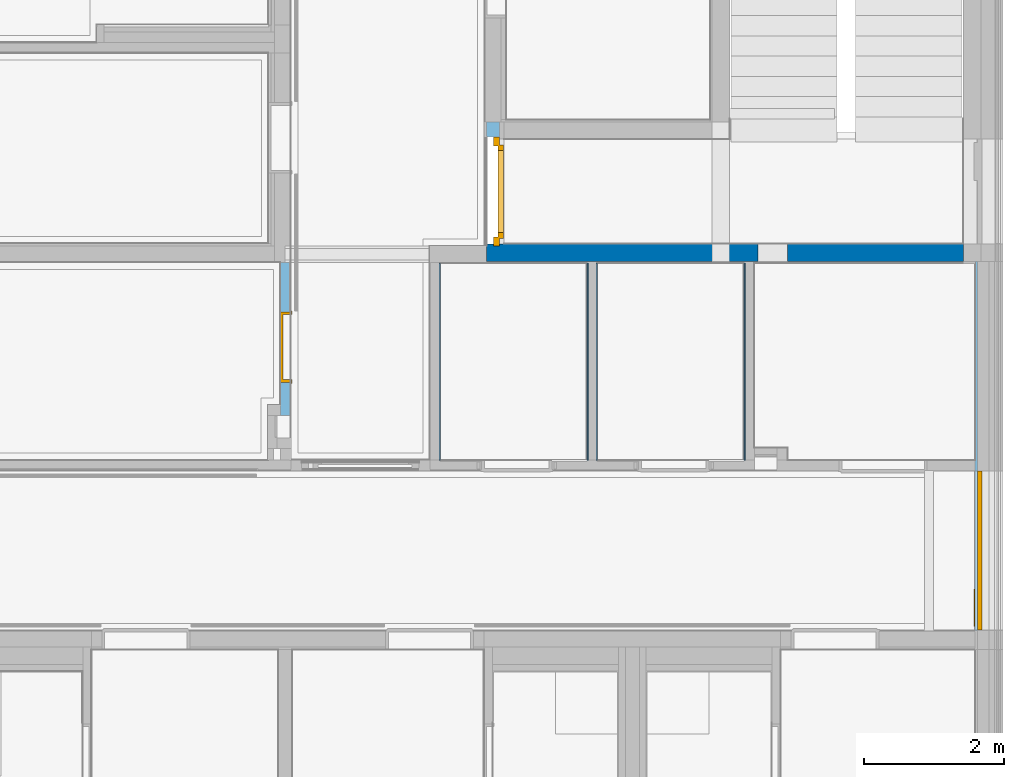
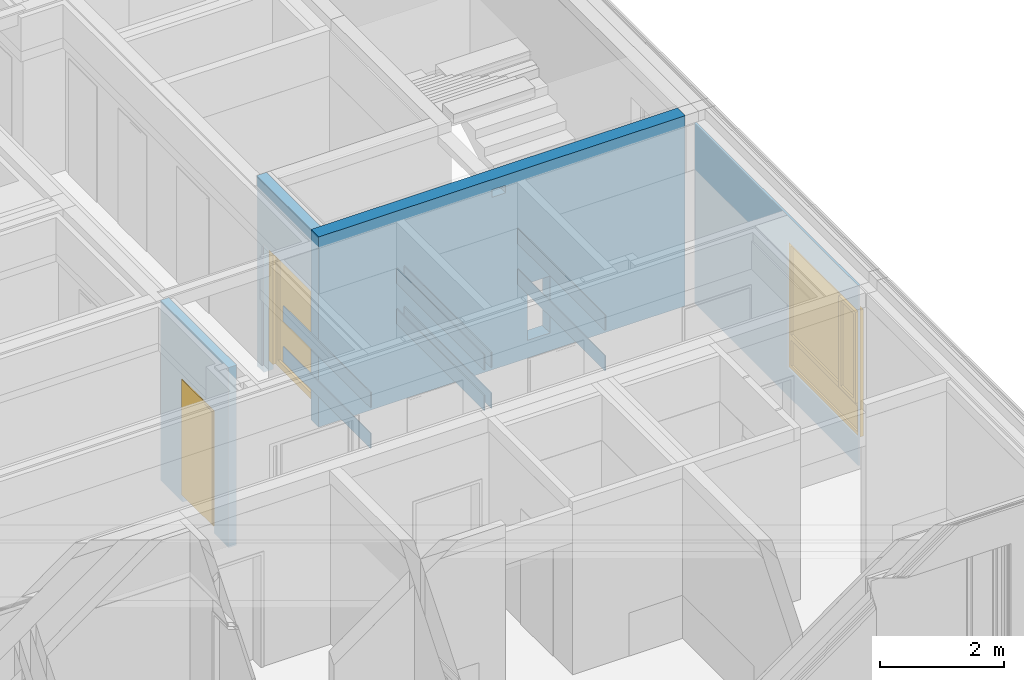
# One storey, part 134 of 222: 9 walls, 2 doors, 1 window, 4 openings, plus 3 elements that do not belong to this part.
"""IFC4 building model written with IfcOpenShell, lengths in metres."""

from ifc_helpers import new_model, entity, si_unit, converted_unit, derived_unit, frame, frame_2d, origin, origin_with_axes, place, context, subcontext, project, spatial, polyline, rectangle, outline, extrude, closed_shell, open_shell, faceted_brep, surface_model, source, transform, mapped, material, type_object, element, fill, save


model = new_model("IFC4")

# Units and contexts
model_context = context("Model", 3, precision=1e-05, world=origin())
body_context = subcontext(model_context, "Body", "Model", "MODEL_VIEW")
ifc_project = project(units=[si_unit("LENGTHUNIT", "METRE"), si_unit("AREAUNIT", "SQUARE_METRE"), si_unit("VOLUMEUNIT", "CUBIC_METRE"), si_unit("MASSUNIT", "GRAM", prefix="KILO"), converted_unit("PLANEANGLEUNIT", "DEGREE", entity("IfcPlaneAngleMeasure", 0.0174532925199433), si_unit("PLANEANGLEUNIT", "RADIAN"), dimensions=[0, 0, 0, 0, 0, 0, 0]), derived_unit("THERMALTRANSMITTANCEUNIT", [(si_unit("POWERUNIT", "WATT"), 1), (si_unit("THERMODYNAMICTEMPERATUREUNIT", "KELVIN"), -1), (si_unit("LENGTHUNIT", "METRE"), -2)]), derived_unit("VOLUMETRICFLOWRATEUNIT", [(si_unit("LENGTHUNIT", "METRE"), 3), (converted_unit("TIMEUNIT", "hour", entity("IfcTimeMeasure", 3600.0), si_unit("TIMEUNIT", "SECOND"), dimensions=[0, 0, 1, 0, 0, 0, 0]), -1), (si_unit("LENGTHUNIT", "METRE"), -1)])], contexts=[model_context])

# Site, building, storey
site_placement = place(None, origin())
site = spatial("IfcSite", under=ifc_project, at=site_placement, Name="Psychiatrie Neubau Wunstorf", CompositionType="ELEMENT")
building_placement = place(site_placement, origin())
building = spatial("IfcBuilding", under=site, at=building_placement, Name="Neubau H2 Stationsgebäude", CompositionType="ELEMENT")
storey_placement = place(building_placement, frame((0.0, 0.0, 3.6)))
storey = spatial("IfcBuildingStorey", under=building, at=storey_placement, Name="H2 Ebene +1", CompositionType="ELEMENT", Elevation=3.6)

# Wall, opening, window
ifc_material_1 = material(Name="WA-LB")
wall_1_placement = place(storey_placement, frame((105.889, 10.6249998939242, 0.0), z_axis=(0.0, 0.0, 1.0), x_axis=(0.0, -1.0, 0.0)))
wall_1 = element("IfcWall", 1, at=wall_1_placement, inside=storey, material=ifc_material_1, context=body_context, shape_type="SweptSolid", body=[
    extrude(rectangle(XDim=5.29249989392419, YDim=0.036, at=frame_2d((2.6462499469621, 0.018), x_axis=(1.0, 0.0))), origin_with_axes(), (0.0, 0.0, 1.0), 3.55),
])
opening_1_placement = place(wall_1_placement, frame((3.00624994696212, 0.0, 0.55), z_axis=(0.0, 1.0, 0.0), x_axis=(0.0, 0.0, 1.0)))
opening_1 = element("IfcOpeningElement", 2, at=opening_1_placement, cuts=wall_1, Name="Fensteröffnung", ObjectType="Opening", context=body_context, shape_type="SweptSolid", body=[
    extrude(outline(polyline([(2.5, 2.28), (2.5, 0.0), (0.0, 0.0), (0.0, 2.28), (2.5, 2.28)])), origin_with_axes(), (0.0, 0.0, 1.0), 0.036),
])
shared_shape_1 = source(origin_with_axes(), body_context, "Body", "SurfaceModel", [
    surface_model("IfcShellBasedSurfaceModel", [(0.0, 0.0, 2.5), (0.0699999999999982, 0.0, 2.5), (0.0699999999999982, 0.0, 0.0), (0.0, 0.0, 0.0), (0.0, 0.0700000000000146, 0.0), (0.0699999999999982, 0.0700000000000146, 0.0), (0.0699999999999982, 0.0700000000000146, 2.5), (0.0, 0.0700000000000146, 2.5)], [closed_shell([[[0, 1, 2, 3]], [[4, 5, 6, 7]], [[3, 4, 7, 0]], [[2, 5, 4, 3]], [[1, 6, 5, 2]], [[0, 7, 6, 1]]], orient=[[False], [False], [False], [False], [False], [False]])]),
    surface_model("IfcShellBasedSurfaceModel", [(2.21, 0.0, 2.5), (2.28, 0.0, 2.5), (2.28, 0.0, 0.0), (2.21, 0.0, 0.0), (2.21, 0.0700000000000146, 0.0), (2.28, 0.0700000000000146, 0.0), (2.28, 0.0700000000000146, 2.5), (2.21, 0.0700000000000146, 2.5)], [closed_shell([[[0, 1, 2, 3]], [[4, 5, 6, 7]], [[3, 4, 7, 0]], [[2, 5, 4, 3]], [[1, 6, 5, 2]], [[0, 7, 6, 1]]], orient=[[False], [False], [False], [False], [False], [False]])]),
    surface_model("IfcShellBasedSurfaceModel", [(0.0699999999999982, 0.0, 0.07), (2.21, 0.0, 0.07), (2.21, 0.0, 0.0), (0.0699999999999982, 0.0, 0.0), (0.0699999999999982, 0.0700000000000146, 0.0), (2.21, 0.0700000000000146, 0.0), (2.21, 0.0700000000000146, 0.07), (0.0699999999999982, 0.0700000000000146, 0.07)], [closed_shell([[[0, 1, 2, 3]], [[4, 5, 6, 7]], [[3, 4, 7, 0]], [[2, 5, 4, 3]], [[1, 6, 5, 2]], [[0, 7, 6, 1]]], orient=[[False], [False], [False], [False], [False], [False]])]),
    surface_model("IfcShellBasedSurfaceModel", [(0.0699999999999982, 0.0, 2.5), (2.21, 0.0, 2.5), (2.21, 0.0, 2.43), (0.0699999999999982, 0.0, 2.43), (0.0699999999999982, 0.0700000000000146, 2.43), (2.21, 0.0700000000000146, 2.43), (2.21, 0.0700000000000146, 2.5), (0.0699999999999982, 0.0700000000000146, 2.5)], [closed_shell([[[0, 1, 2, 3]], [[4, 5, 6, 7]], [[3, 4, 7, 0]], [[2, 5, 4, 3]], [[1, 6, 5, 2]], [[0, 7, 6, 1]]], orient=[[False], [False], [False], [False], [False], [False]])]),
    surface_model("IfcShellBasedSurfaceModel", [(0.0699999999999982, 0.0, 0.67), (2.21, 0.0, 0.67), (2.21, 0.0, 0.57), (0.0699999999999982, 0.0, 0.57), (0.0699999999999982, 0.0700000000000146, 0.57), (2.21, 0.0700000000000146, 0.57), (2.21, 0.0700000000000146, 0.67), (0.0699999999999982, 0.0700000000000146, 0.67)], [closed_shell([[[0, 1, 2, 3]], [[4, 5, 6, 7]], [[3, 4, 7, 0]], [[2, 5, 4, 3]], [[1, 6, 5, 2]], [[0, 7, 6, 1]]], orient=[[False], [False], [False], [False], [False], [False]])]),
    surface_model("IfcShellBasedSurfaceModel", [(0.0699999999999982, 0.035, 0.07), (0.0699999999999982, 0.035, 0.57), (2.21, 0.035, 0.57), (2.21, 0.035, 0.07)], [open_shell([[[0, 1, 2, 3]]], orient=[[False]])]),
    surface_model("IfcShellBasedSurfaceModel", [(0.569999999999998, 0.0, 2.43), (0.639999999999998, 0.0, 2.43), (0.639999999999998, 0.0, 0.67), (0.569999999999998, 0.0, 0.67), (0.569999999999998, 0.0700000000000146, 0.67), (0.639999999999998, 0.0700000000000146, 0.67), (0.639999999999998, 0.0700000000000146, 2.43), (0.569999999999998, 0.0700000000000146, 2.43)], [closed_shell([[[0, 1, 2, 3]], [[4, 5, 6, 7]], [[3, 4, 7, 0]], [[2, 5, 4, 3]], [[1, 6, 5, 2]], [[0, 7, 6, 1]]], orient=[[False], [False], [False], [False], [False], [False]])]),
    surface_model("IfcShellBasedSurfaceModel", [(0.0499999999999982, 0.05, 2.45), (0.119999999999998, 0.05, 2.45), (0.119999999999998, 0.05, 0.65), (0.0499999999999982, 0.05, 0.65), (0.0499999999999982, 0.120000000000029, 0.65), (0.119999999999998, 0.120000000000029, 0.65), (0.119999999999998, 0.120000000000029, 2.45), (0.0499999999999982, 0.120000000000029, 2.45)], [closed_shell([[[0, 1, 2, 3]], [[4, 5, 6, 7]], [[3, 4, 7, 0]], [[2, 5, 4, 3]], [[1, 6, 5, 2]], [[0, 7, 6, 1]]], orient=[[False], [False], [False], [False], [False], [False]])]),
    surface_model("IfcShellBasedSurfaceModel", [(0.519999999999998, 0.05, 2.45), (0.589999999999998, 0.05, 2.45), (0.589999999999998, 0.05, 0.65), (0.519999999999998, 0.05, 0.65), (0.519999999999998, 0.120000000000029, 0.65), (0.589999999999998, 0.120000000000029, 0.65), (0.589999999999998, 0.120000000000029, 2.45), (0.519999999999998, 0.120000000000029, 2.45)], [closed_shell([[[0, 1, 2, 3]], [[4, 5, 6, 7]], [[3, 4, 7, 0]], [[2, 5, 4, 3]], [[1, 6, 5, 2]], [[0, 7, 6, 1]]], orient=[[False], [False], [False], [False], [False], [False]])]),
    surface_model("IfcShellBasedSurfaceModel", [(0.119999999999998, 0.05, 0.72), (0.519999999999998, 0.05, 0.72), (0.519999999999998, 0.05, 0.65), (0.119999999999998, 0.05, 0.65), (0.119999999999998, 0.120000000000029, 0.65), (0.519999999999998, 0.120000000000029, 0.65), (0.519999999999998, 0.120000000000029, 0.72), (0.119999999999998, 0.120000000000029, 0.72)], [closed_shell([[[0, 1, 2, 3]], [[4, 5, 6, 7]], [[3, 4, 7, 0]], [[2, 5, 4, 3]], [[1, 6, 5, 2]], [[0, 7, 6, 1]]], orient=[[False], [False], [False], [False], [False], [False]])]),
    surface_model("IfcShellBasedSurfaceModel", [(0.119999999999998, 0.05, 2.45), (0.519999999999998, 0.05, 2.45), (0.519999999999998, 0.05, 2.38), (0.119999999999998, 0.05, 2.38), (0.119999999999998, 0.120000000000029, 2.38), (0.519999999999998, 0.120000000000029, 2.38), (0.519999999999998, 0.120000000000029, 2.45), (0.119999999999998, 0.120000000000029, 2.45)], [closed_shell([[[0, 1, 2, 3]], [[4, 5, 6, 7]], [[3, 4, 7, 0]], [[2, 5, 4, 3]], [[1, 6, 5, 2]], [[0, 7, 6, 1]]], orient=[[False], [False], [False], [False], [False], [False]])]),
    surface_model("IfcShellBasedSurfaceModel", [(0.639999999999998, 0.035, 0.67), (0.639999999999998, 0.035, 2.43), (2.21, 0.035, 2.43), (2.21, 0.035, 0.67)], [open_shell([[[0, 1, 2, 3]]], orient=[[False]])]),
    surface_model("IfcShellBasedSurfaceModel", [(0.119999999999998, 0.0850000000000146, 0.72), (0.119999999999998, 0.0850000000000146, 2.38), (0.519999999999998, 0.0850000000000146, 2.38), (0.519999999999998, 0.0850000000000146, 0.72)], [open_shell([[[0, 1, 2, 3]]], orient=[[False]])]),
])
window_placement = place(opening_1_placement, frame((0.0, 2.28, 0.1), z_axis=(1.0, 0.0, 0.0), x_axis=(0.0, -1.0, 0.0)))
window = element("IfcWindow", 3, at=window_placement, inside=storey, Name="Fenster", OverallHeight=2.5, OverallWidth=2.28, PartitioningType="USERDEFINED", PredefinedType="WINDOW", context=body_context, shape_type="MappedRepresentation", body=[
    mapped(shared_shape_1, transform((0.0, 0.0, 0.0), x_axis=(1.0, 0.0, 0.0), y_axis=(0.0, 1.0, 0.0), z_axis=(0.0, 0.0, 1.0), scale=1.0)),
])
fill(opening_1, window)

# Wall, opening, door
ifc_material_2 = material(Name="WI-LB")
wall_2_placement = place(storey_placement, frame((95.93250003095, 10.6104998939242, 0.0), z_axis=(0.0, 0.0, 1.0), x_axis=(0.0, -1.0, 0.0)))
wall_2 = element("IfcWall", 4, at=wall_2_placement, inside=storey, material=ifc_material_2, context=body_context, shape_type="SweptSolid", body=[
    extrude(outline(polyline([(-2.19550000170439, 0.0), (0.0, 0.0), (0.0, 0.14999999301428), (-2.19550000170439, 0.149999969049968), (-2.19550000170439, 0.0)])), frame((2.19550000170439, 0.0, 0.0), z_axis=(0.0, 0.0, 1.0), x_axis=(1.0, 0.0, 0.0)), (0.0, 0.0, 1.0), 3.55),
])
opening_2_placement = place(wall_2_placement, frame((1.72049989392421, 0.15, 0.0), z_axis=(0.0, -1.0, 0.0), x_axis=(0.0, 0.0, 1.0)))
opening_2 = element("IfcOpeningElement", 5, at=opening_2_placement, cuts=wall_2, Name="Türöffnung", ObjectType="Opening", context=body_context, shape_type="SweptSolid", body=[
    extrude(outline(polyline([(2.41, 1.01), (2.41, 0.0), (0.0, 0.0), (0.0, 1.01), (2.41, 1.01)])), origin_with_axes(), (0.0, 0.0, 1.0), 0.15),
])
ifc_material_3 = material(Name="TI-1F-UZ-ZK")
door_type_1 = type_object("IfcDoorType", Name="SMT", OperationType="SINGLE_SWING_RIGHT", ParameterTakesPrecedence=False, PredefinedType="DOOR")
shared_shape_2 = source(origin_with_axes(), body_context, "Body", "Brep", [
    faceted_brep([(1.07499999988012, 0.0250000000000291, 0.0), (1.07499999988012, 0.125000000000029, 0.0), (1.03499999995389, 0.125000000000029, 0.0), (1.03499999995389, 0.0250000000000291, 0.0), (1.07499999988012, 0.125000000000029, 3.55), (1.07499999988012, 0.0250000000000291, 3.55), (1.03499999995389, 0.0250000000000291, 3.55), (1.03499999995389, 0.125000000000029, 3.55)], [[[0, 1, 2, 3]], [[4, 5, 6, 7]], [[1, 0, 5, 4]], [[2, 1, 4, 7]], [[3, 2, 7, 6]], [[0, 3, 6, 5]]], orient=[[False], [False], [False], [False], [False], [False]]),
    faceted_brep([(-0.0249999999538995, 0.0250000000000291, 0.0), (-0.0249999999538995, 0.125000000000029, 0.0), (-0.0649999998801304, 0.125000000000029, 0.0), (-0.0649999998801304, 0.0250000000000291, 0.0), (-0.0249999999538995, 0.125000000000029, 3.55), (-0.0249999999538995, 0.0250000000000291, 3.55), (-0.0649999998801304, 0.0250000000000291, 3.55), (-0.0649999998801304, 0.125000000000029, 3.55)], [[[0, 1, 2, 3]], [[4, 5, 6, 7]], [[1, 0, 5, 4]], [[2, 1, 4, 7]], [[3, 2, 7, 6]], [[0, 3, 6, 5]]], orient=[[False], [False], [False], [False], [False], [False]]),
    faceted_brep([(1.03499999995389, 0.0250000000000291, 2.435), (1.03499999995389, 0.125000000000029, 2.435), (-0.0249999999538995, 0.125000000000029, 2.435), (-0.0249999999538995, 0.0250000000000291, 2.435), (1.03499999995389, 0.125000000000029, 2.475), (1.03499999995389, 0.0250000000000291, 2.475), (-0.0249999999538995, 0.0250000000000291, 2.475), (-0.0249999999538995, 0.125000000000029, 2.475)], [[[0, 1, 2, 3]], [[4, 5, 6, 7]], [[1, 0, 5, 4]], [[2, 1, 4, 7]], [[3, 2, 7, 6]], [[0, 3, 6, 5]]], orient=[[False], [False], [False], [False], [False], [False]]),
])
shared_shape_3 = source(origin_with_axes(), body_context, "Body", "Brep", [
    faceted_brep([(1.01, -0.0149999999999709, 2.41), (1.01, -0.0149999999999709, 0.15), (0.969999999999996, -0.0149999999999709, 0.15), (0.969999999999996, -0.0149999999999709, 2.41), (1.01, 0.165000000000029, 0.15), (1.01, 0.165000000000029, 2.41), (0.969999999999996, 0.165000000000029, 2.41), (0.969999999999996, 0.165000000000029, 0.15)], [[[0, 1, 2, 3]], [[4, 5, 6, 7]], [[1, 0, 5, 4]], [[2, 1, 4, 7]], [[3, 2, 7, 6]], [[0, 3, 6, 5]]], orient=[[False], [False], [False], [False], [False], [False]]),
    faceted_brep([(1.01, -0.0149999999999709, 2.425), (1.025, -0.0149999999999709, 2.425), (1.025, -0.0149999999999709, 0.15), (1.01, -0.0149999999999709, 0.15), (1.01, 0.0, 0.15), (1.025, 0.0, 0.15), (1.025, 0.0, 2.425), (1.01, 0.0, 2.425)], [[[0, 1, 2, 3]], [[4, 5, 6, 7]], [[3, 4, 7, 0]], [[2, 5, 4, 3]], [[1, 6, 5, 2]], [[0, 7, 6, 1]]], orient=[[False], [False], [False], [False], [False], [False]]),
    faceted_brep([(1.01, 0.150000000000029, 2.425), (1.025, 0.150000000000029, 2.425), (1.025, 0.150000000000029, 0.15), (1.01, 0.150000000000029, 0.15), (1.01, 0.165000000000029, 0.15), (1.025, 0.165000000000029, 0.15), (1.025, 0.165000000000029, 2.425), (1.01, 0.165000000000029, 2.425)], [[[0, 1, 2, 3]], [[4, 5, 6, 7]], [[3, 4, 7, 0]], [[2, 5, 4, 3]], [[1, 6, 5, 2]], [[0, 7, 6, 1]]], orient=[[False], [False], [False], [False], [False], [False]]),
    faceted_brep([(0.0399999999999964, -0.0149999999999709, 2.41), (0.0399999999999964, -0.0149999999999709, 0.15), (0.0, -0.0149999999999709, 0.15), (0.0, -0.0149999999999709, 2.41), (0.0399999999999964, 0.165000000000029, 0.15), (0.0399999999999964, 0.165000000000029, 2.41), (0.0, 0.165000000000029, 2.41), (0.0, 0.165000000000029, 0.15)], [[[0, 1, 2, 3]], [[4, 5, 6, 7]], [[1, 0, 5, 4]], [[2, 1, 4, 7]], [[3, 2, 7, 6]], [[0, 3, 6, 5]]], orient=[[False], [False], [False], [False], [False], [False]]),
    faceted_brep([(0.0, -0.0149999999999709, 2.425), (0.0, -0.0149999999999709, 0.15), (-0.0150000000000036, -0.0149999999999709, 0.15), (-0.0150000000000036, -0.0149999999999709, 2.425), (0.0, 0.0, 0.15), (0.0, 0.0, 2.425), (-0.0150000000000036, 0.0, 2.425), (-0.0150000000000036, 0.0, 0.15)], [[[0, 1, 2, 3]], [[4, 5, 6, 7]], [[1, 0, 5, 4]], [[2, 1, 4, 7]], [[3, 2, 7, 6]], [[0, 3, 6, 5]]], orient=[[False], [False], [False], [False], [False], [False]]),
    faceted_brep([(0.0, 0.150000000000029, 2.425), (0.0, 0.150000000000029, 0.15), (-0.0150000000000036, 0.150000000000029, 0.15), (-0.0150000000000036, 0.150000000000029, 2.425), (0.0, 0.165000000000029, 0.15), (0.0, 0.165000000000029, 2.425), (-0.0150000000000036, 0.165000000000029, 2.425), (-0.0150000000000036, 0.165000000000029, 0.15)], [[[0, 1, 2, 3]], [[4, 5, 6, 7]], [[1, 0, 5, 4]], [[2, 1, 4, 7]], [[3, 2, 7, 6]], [[0, 3, 6, 5]]], orient=[[False], [False], [False], [False], [False], [False]]),
    faceted_brep([(0.969999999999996, -0.0149999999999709, 2.41), (0.969999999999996, -0.0149999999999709, 2.37), (0.0399999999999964, -0.0149999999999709, 2.37), (0.0399999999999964, -0.0149999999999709, 2.41), (0.969999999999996, 0.165000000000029, 2.37), (0.969999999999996, 0.165000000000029, 2.41), (0.0399999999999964, 0.165000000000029, 2.41), (0.0399999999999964, 0.165000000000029, 2.37)], [[[0, 1, 2, 3]], [[4, 5, 6, 7]], [[1, 0, 5, 4]], [[2, 1, 4, 7]], [[3, 2, 7, 6]], [[0, 3, 6, 5]]], orient=[[False], [False], [False], [False], [False], [False]]),
    faceted_brep([(1.01, -0.0149999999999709, 2.425), (1.01, -0.0149999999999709, 2.41), (0.0, -0.0149999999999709, 2.41), (0.0, -0.0149999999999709, 2.425), (1.01, 0.0, 2.41), (1.01, 0.0, 2.425), (0.0, 0.0, 2.425), (0.0, 0.0, 2.41)], [[[0, 1, 2, 3]], [[4, 5, 6, 7]], [[1, 0, 5, 4]], [[2, 1, 4, 7]], [[3, 2, 7, 6]], [[0, 3, 6, 5]]], orient=[[False], [False], [False], [False], [False], [False]]),
    faceted_brep([(1.01, 0.150000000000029, 2.425), (1.01, 0.150000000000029, 2.41), (0.0, 0.150000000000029, 2.41), (0.0, 0.150000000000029, 2.425), (1.01, 0.165000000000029, 2.41), (1.01, 0.165000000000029, 2.425), (0.0, 0.165000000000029, 2.425), (0.0, 0.165000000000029, 2.41)], [[[0, 1, 2, 3]], [[4, 5, 6, 7]], [[1, 0, 5, 4]], [[2, 1, 4, 7]], [[3, 2, 7, 6]], [[0, 3, 6, 5]]], orient=[[False], [False], [False], [False], [False], [False]]),
    faceted_brep([(0.984999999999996, 0.116000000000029, 2.385), (0.984999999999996, 0.116000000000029, 0.15), (0.0249999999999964, 0.116000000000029, 0.15), (0.0249999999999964, 0.116000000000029, 2.385), (0.984999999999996, 0.166000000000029, 0.15), (0.984999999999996, 0.166000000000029, 2.385), (0.0249999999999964, 0.166000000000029, 2.385), (0.0249999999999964, 0.166000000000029, 0.15)], [[[0, 1, 2, 3]], [[4, 5, 6, 7]], [[1, 0, 5, 4]], [[2, 1, 4, 7]], [[3, 2, 7, 6]], [[0, 3, 6, 5]]], orient=[[False], [False], [False], [False], [False], [False]]),
])
door_1_placement = place(opening_2_placement, frame((0.0, 0.0, 0.0), z_axis=(1.0, 0.0, 0.0), x_axis=(0.0, 1.0, 0.0)))
door_1 = element("IfcDoor", 6, at=door_1_placement, inside=storey, type_object=door_type_1, material=ifc_material_3, Name="SMT", OverallHeight=2.41, OverallWidth=1.01, context=body_context, shape_type="MappedRepresentation", body=[
    mapped(shared_shape_2, transform((0.0, 0.0, 0.0), x_axis=(1.0, 0.0, 0.0), y_axis=(0.0, 1.0, 0.0), z_axis=(0.0, 0.0, 1.0), scale=1.0)),
    mapped(shared_shape_3, transform((0.0, 0.0, 0.0), x_axis=(1.0, 0.0, 0.0), y_axis=(0.0, 1.0, 0.0), z_axis=(0.0, 0.0, 1.0), scale=1.0)),
])
fill(opening_2, door_1)

ifc_material_4 = material(Name="WI-STB")
wall_3_placement = place(storey_placement, frame((99.0689999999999, 10.8749998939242, 0.0), z_axis=(0.0, 0.0, 1.0), x_axis=(0.0, 1.0, 0.0)))
wall_3 = element("IfcWall", 7, at=wall_3_placement, inside=storey, material=ifc_material_4, context=body_context, shape_type="SweptSolid", body=[
    extrude(outline(polyline([(0.0300000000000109, -0.18), (1.78000140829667, -0.18), (1.78000140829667, 0.0), (0.0, 0.0), (0.0300000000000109, -1.8131168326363e-07), (0.0300000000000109, -0.18)])), frame((-0.0300000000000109, 0.18, 0.0), z_axis=(0.0, 0.0, 1.0), x_axis=(1.0, 0.0, 0.0)), (0.0, 0.0, 1.0), 3.75),
])
opening_3_placement = place(wall_3_placement, frame((1.52999999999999, 0.18, 0.0), z_axis=(0.0, 0.0, 1.0), x_axis=(-1.0, 0.0, 0.0)))
opening_3 = element("IfcOpeningElement", 8, at=opening_3_placement, cuts=wall_3, Name="Türöffnung", ObjectType="Opening", context=body_context, shape_type="SweptSolid", body=[
    extrude(outline(polyline([(0.0, 0.0), (1.56, 0.0), (1.52999999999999, 0.18), (0.0, 0.18), (0.0, 0.0)])), origin_with_axes(), (0.0, 0.0, 1.0), 2.53),
])
ifc_material_5 = material(Name="TI-1F-AG-D-O")
door_type_2 = type_object("IfcDoorType", Name="SMT", OperationType="SINGLE_SWING_LEFT", ParameterTakesPrecedence=False, PredefinedType="DOOR")
shared_shape_4 = source(origin_with_axes(), body_context, "Body", "SurfaceModel", [
    surface_model("IfcShellBasedSurfaceModel", [(1.54597998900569, 0.0791467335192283, 2.53), (1.49597998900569, 0.0791467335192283, 2.53), (1.49597998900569, 0.0791467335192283, 0.2), (1.54597998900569, 0.0791467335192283, 0.2), (1.54597998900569, -0.000853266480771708, 0.2), (1.49597998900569, -0.000853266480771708, 0.2), (1.49597998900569, -0.000853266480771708, 2.53), (1.54597998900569, -0.000853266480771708, 2.53)], [closed_shell([[[0, 1, 2, 3]], [[4, 5, 6, 7]], [[3, 4, 7, 0]], [[2, 5, 4, 3]], [[1, 6, 5, 2]], [[0, 7, 6, 1]]], orient=[[False], [False], [False], [False], [False], [False]])]),
    surface_model("IfcShellBasedSurfaceModel", [(0.0359799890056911, 0.0791467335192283, 2.53), (-0.0140200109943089, 0.0791467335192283, 2.53), (-0.0140200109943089, 0.0791467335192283, 0.2), (0.0359799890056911, 0.0791467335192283, 0.2), (0.0359799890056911, -0.000853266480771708, 0.2), (-0.0140200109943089, -0.000853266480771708, 0.2), (-0.0140200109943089, -0.000853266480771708, 2.53), (0.0359799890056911, -0.000853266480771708, 2.53)], [closed_shell([[[0, 1, 2, 3]], [[4, 5, 6, 7]], [[3, 4, 7, 0]], [[2, 5, 4, 3]], [[1, 6, 5, 2]], [[0, 7, 6, 1]]], orient=[[False], [False], [False], [False], [False], [False]])]),
    surface_model("IfcShellBasedSurfaceModel", [(1.49597998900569, 0.0791467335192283, 2.53), (0.0359799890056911, 0.0791467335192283, 2.53), (0.0359799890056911, 0.0791467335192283, 2.48), (1.49597998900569, 0.0791467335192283, 2.48), (1.49597998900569, -0.000853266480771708, 2.48), (0.0359799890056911, -0.000853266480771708, 2.48), (0.0359799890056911, -0.000853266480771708, 2.53), (1.49597998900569, -0.000853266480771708, 2.53)], [closed_shell([[[0, 1, 2, 3]], [[4, 5, 6, 7]], [[3, 4, 7, 0]], [[2, 5, 4, 3]], [[1, 6, 5, 2]], [[0, 7, 6, 1]]], orient=[[False], [False], [False], [False], [False], [False]])]),
    surface_model("IfcShellBasedSurfaceModel", [(1.49597998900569, 0.0791467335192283, 2.48), (1.41597998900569, 0.0791467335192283, 2.48), (1.41597998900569, 0.0791467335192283, 0.2), (1.49597998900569, 0.0791467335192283, 0.2), (1.49597998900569, -0.000853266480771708, 0.2), (1.41597998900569, -0.000853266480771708, 0.2), (1.41597998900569, -0.000853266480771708, 2.48), (1.49597998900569, -0.000853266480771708, 2.48)], [closed_shell([[[0, 1, 2, 3]], [[4, 5, 6, 7]], [[3, 4, 7, 0]], [[2, 5, 4, 3]], [[1, 6, 5, 2]], [[0, 7, 6, 1]]], orient=[[False], [False], [False], [False], [False], [False]])]),
    surface_model("IfcShellBasedSurfaceModel", [(0.115979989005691, 0.0791467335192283, 2.48), (0.0359799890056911, 0.0791467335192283, 2.48), (0.0359799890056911, 0.0791467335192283, 0.2), (0.115979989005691, 0.0791467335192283, 0.2), (0.115979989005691, -0.000853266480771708, 0.2), (0.0359799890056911, -0.000853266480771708, 0.2), (0.0359799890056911, -0.000853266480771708, 2.48), (0.115979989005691, -0.000853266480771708, 2.48)], [closed_shell([[[0, 1, 2, 3]], [[4, 5, 6, 7]], [[3, 4, 7, 0]], [[2, 5, 4, 3]], [[1, 6, 5, 2]], [[0, 7, 6, 1]]], orient=[[False], [False], [False], [False], [False], [False]])]),
    surface_model("IfcShellBasedSurfaceModel", [(1.41597998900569, 0.0791467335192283, 2.48), (0.115979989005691, 0.0791467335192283, 2.48), (0.115979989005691, 0.0791467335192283, 2.4), (1.41597998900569, 0.0791467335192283, 2.4), (1.41597998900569, -0.000853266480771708, 2.4), (0.115979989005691, -0.000853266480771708, 2.4), (0.115979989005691, -0.000853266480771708, 2.48), (1.41597998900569, -0.000853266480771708, 2.48)], [closed_shell([[[0, 1, 2, 3]], [[4, 5, 6, 7]], [[3, 4, 7, 0]], [[2, 5, 4, 3]], [[1, 6, 5, 2]], [[0, 7, 6, 1]]], orient=[[False], [False], [False], [False], [False], [False]])]),
    surface_model("IfcShellBasedSurfaceModel", [(1.43597998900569, 0.139146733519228, 2.42), (1.35597998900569, 0.139146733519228, 2.42), (1.35597998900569, 0.139146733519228, 0.18), (1.43597998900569, 0.139146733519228, 0.18), (1.43597998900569, 0.0591467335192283, 0.18), (1.35597998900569, 0.0591467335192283, 0.18), (1.35597998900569, 0.0591467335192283, 2.42), (1.43597998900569, 0.0591467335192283, 2.42)], [closed_shell([[[0, 1, 2, 3]], [[4, 5, 6, 7]], [[3, 4, 7, 0]], [[2, 5, 4, 3]], [[1, 6, 5, 2]], [[0, 7, 6, 1]]], orient=[[False], [False], [False], [False], [False], [False]])]),
    surface_model("IfcShellBasedSurfaceModel", [(0.175979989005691, 0.139146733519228, 2.42), (0.0959799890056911, 0.139146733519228, 2.42), (0.0959799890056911, 0.139146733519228, 0.18), (0.175979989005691, 0.139146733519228, 0.18), (0.175979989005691, 0.0591467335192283, 0.18), (0.0959799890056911, 0.0591467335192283, 0.18), (0.0959799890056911, 0.0591467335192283, 2.42), (0.175979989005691, 0.0591467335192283, 2.42)], [closed_shell([[[0, 1, 2, 3]], [[4, 5, 6, 7]], [[3, 4, 7, 0]], [[2, 5, 4, 3]], [[1, 6, 5, 2]], [[0, 7, 6, 1]]], orient=[[False], [False], [False], [False], [False], [False]])]),
    surface_model("IfcShellBasedSurfaceModel", [(1.35597998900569, 0.139146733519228, 0.3), (0.175979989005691, 0.139146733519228, 0.3), (0.175979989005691, 0.139146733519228, 0.18), (1.35597998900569, 0.139146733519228, 0.18), (1.35597998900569, 0.0591467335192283, 0.18), (0.175979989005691, 0.0591467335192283, 0.18), (0.175979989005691, 0.0591467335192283, 0.3), (1.35597998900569, 0.0591467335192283, 0.3)], [closed_shell([[[0, 1, 2, 3]], [[4, 5, 6, 7]], [[3, 4, 7, 0]], [[2, 5, 4, 3]], [[1, 6, 5, 2]], [[0, 7, 6, 1]]], orient=[[False], [False], [False], [False], [False], [False]])]),
    surface_model("IfcShellBasedSurfaceModel", [(1.35597998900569, 0.139146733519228, 2.42), (0.175979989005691, 0.139146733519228, 2.42), (0.175979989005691, 0.139146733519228, 2.34), (1.35597998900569, 0.139146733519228, 2.34), (1.35597998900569, 0.0591467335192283, 2.34), (0.175979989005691, 0.0591467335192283, 2.34), (0.175979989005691, 0.0591467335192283, 2.42), (1.35597998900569, 0.0591467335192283, 2.42)], [closed_shell([[[0, 1, 2, 3]], [[4, 5, 6, 7]], [[3, 4, 7, 0]], [[2, 5, 4, 3]], [[1, 6, 5, 2]], [[0, 7, 6, 1]]], orient=[[False], [False], [False], [False], [False], [False]])]),
    surface_model("IfcShellBasedSurfaceModel", [(1.35597998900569, 0.0991467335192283, 0.3), (1.35597998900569, 0.0991467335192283, 2.34), (0.175979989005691, 0.0991467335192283, 2.34), (0.175979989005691, 0.0991467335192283, 0.3)], [open_shell([[[0, 1, 2, 3]]], orient=[[False]])]),
])
door_2_placement = place(opening_3_placement, frame((0.0140200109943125, 0.100853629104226, 0.0)))
door_2 = element("IfcDoor", 9, at=door_2_placement, inside=storey, type_object=door_type_2, material=ifc_material_5, Name="SMT", OverallHeight=2.53, OverallWidth=1.56, context=body_context, shape_type="MappedRepresentation", body=[
    mapped(shared_shape_4, transform((0.0, 0.0, 0.0), x_axis=(1.0, 0.0, 0.0), y_axis=(0.0, 1.0, 0.0), z_axis=(0.0, 0.0, 1.0), scale=1.0)),
])
fill(opening_3, door_2)

# Walls
for number, where, name in (
    (10, (98.207, 7.77500025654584, 2.35), "WV 1.1"),
    (11, (98.207, 7.77500025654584, 1.55), "WV 1.1"),
    (12, (100.457, 7.77500025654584, 2.35), "WV 1.1"),
    (13, (100.457, 7.77500025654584, 1.55), "WV 1.1"),
    (14, (102.575, 7.77500025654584, 2.35), "WV 1.1"),
    (15, (102.575, 7.77500025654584, 1.55), "WV 1.1"),
    (16, (100.325, 7.77500025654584, 2.35), "WV 1.1"),
    (17, (100.325, 7.77500025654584, 1.55), "WV 1.1"),
):
    element("IfcWall", number, at=place(storey_placement, frame(where)), inside=storey, Name=name, context=body_context, shape_type="Brep", body=[
        faceted_brep([(0.018, 2.82, 0.0), (0.0, 2.82, 0.0), (0.0, 0.0, 0.0), (0.018, 0.0, 0.0), (0.0, 2.82, 0.3), (0.018, 2.82, 0.3), (0.018, 0.0, 0.3), (0.0, 0.0, 0.3)], [[[0, 1, 2, 3]], [[4, 5, 6, 7]], [[1, 0, 5, 4]], [[2, 1, 4, 7]], [[3, 2, 7, 6]], [[0, 3, 6, 5]]], orient=[[False], [False], [False], [False], [False], [False]]),
    ])

# Wall, opening
ifc_material_6 = material(Name="WI-STB")
wall_4_placement = place(storey_placement, frame((98.8890001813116, 10.6249998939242, 0.0)))
wall_4 = element("IfcWall", 18, at=wall_4_placement, inside=storey, material=ifc_material_6, context=body_context, shape_type="Brep", body=[
    faceted_brep([(3.4809998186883, 0.0, 3.4), (3.2309998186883, 0.0, 3.4), (3.2309998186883, 0.25, 3.4), (3.4809998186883, 0.25, 3.4), (3.4809998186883, 0.25, 3.55), (3.2309998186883, 0.25, 3.55), (3.2309998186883, 0.0, 3.55), (3.4809998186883, 0.0, 3.55), (6.83099981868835, 0.0, 0.0), (0.0, 0.0, 0.0), (0.0, 0.0, 3.75), (6.83099981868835, 0.0, 3.75), (0.0, 0.25, 0.0), (0.0, 0.25, 3.75), (6.83099981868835, 0.25, 0.0), (6.83099981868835, 0.25, 3.75)], [[[0, 1, 2, 3]], [[4, 5, 6, 7]], [[7, 0, 3, 4]], [[5, 2, 1, 6]], [[8, 9, 10, 11], [0, 7, 6, 1]], [[9, 12, 13, 10]], [[12, 14, 15, 13], [2, 5, 4, 3]], [[14, 8, 11, 15]], [[15, 11, 10, 13]], [[8, 14, 12, 9]]], orient=[[False], [False], [False], [False], [False, False], [False], [False, False], [False], [False], [False]]),
])
opening_4_placement = place(wall_4_placement, frame((4.31065493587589, 0.250000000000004, 0.35), z_axis=(0.0, -1.0, 0.0), x_axis=(0.0, 0.0, 1.0)))
element("IfcOpeningElement", 19, at=opening_4_placement, cuts=wall_4, Name="Wandnische", ObjectType="Opening", context=body_context, shape_type="SweptSolid", body=[
    extrude(outline(polyline([(1.12, 0.42), (1.12, 0.0), (0.0, 0.0), (0.0, 0.42), (1.12, 0.42)])), origin_with_axes(), (0.0, 0.0, 1.0), 0.25),
])

save(model, "model.ifc")
